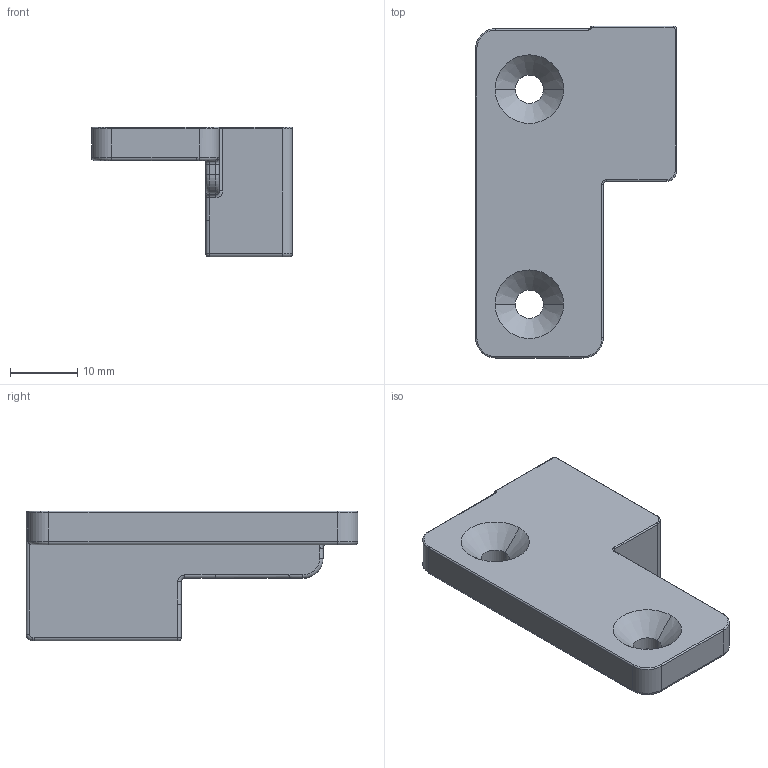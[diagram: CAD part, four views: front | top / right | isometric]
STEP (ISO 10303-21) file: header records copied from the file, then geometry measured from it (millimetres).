
FILE_DESCRIPTION (( 'STEP AP203' ), '1' );
FILE_NAME ('HT1003J-L.STEP', '2021-03-30T02:08:36', ( 'Users' ), ( 'Microsoft' ), 'SwSTEP 2.0', 'SolidWorks 2018', '' );
FILE_SCHEMA (( 'CONFIG_CONTROL_DESIGN' ));
Length unit declared in the file: millimetre
Products named in the file (1): HT1003J-L
Bounding box: 29.9 x 49.4 x 19.3 mm (x, y, z)
Volume: 8029.5 mm3; surface area: 4619.8 mm2
Topology: 1 solids, 2 shells, 158 faces, 382 edges, 220 vertices
Faces by surface type: cylinder 85, torus 34, plane 24, bspline 6, sphere 5, cone 4
Entity records: 4762 total; most frequent: CARTESIAN_POINT 977, DIRECTION 845, ORIENTED_EDGE 748, EDGE_CURVE 374, AXIS2_PLACEMENT_3D 336, VERTEX_POINT 220, CIRCLE 183, VECTOR 173
